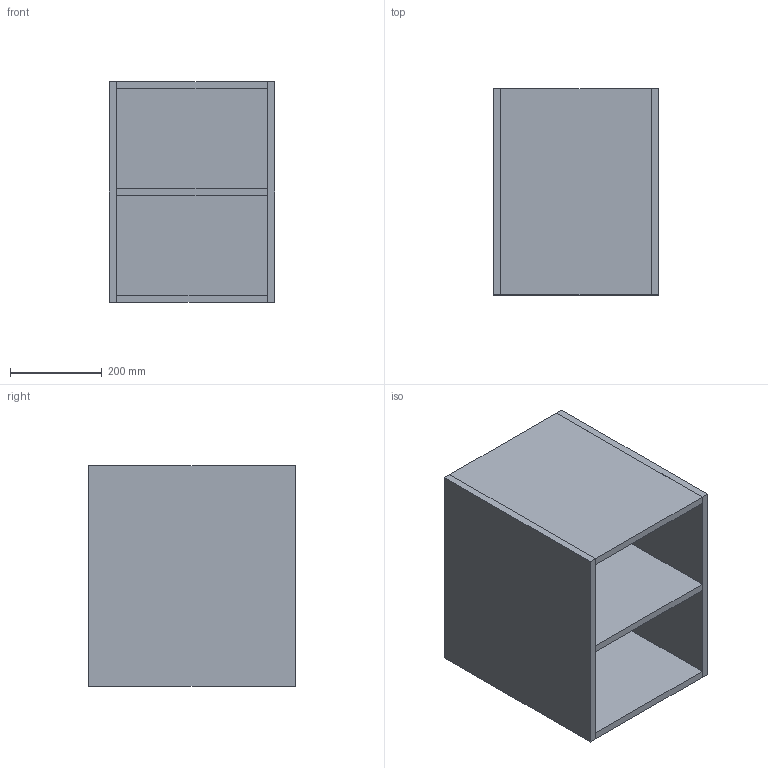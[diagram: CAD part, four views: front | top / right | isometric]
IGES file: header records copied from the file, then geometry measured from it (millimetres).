
Start section: Data from Parasolid IGES Translator 19.0.9, Copyright(c) 2006 Siemens PL M Software. All Rights Reserved.
Global section: file name: noorth-SI-H 48 D 47 W 36_8506.igs; native system: By Siemens PLM Incorporated; preprocessor: XPlus GENERIC/IGES 19.0.9; author: Noname; organization: Noname; date: 20200601.111341; units: metre
Bounding box: 360.01 x 448.06 x 480 mm (x, y, z)
Volume: 14355278.4 mm3; surface area: 2173973.3 mm2
Topology: 6 solids, 6 shells, 36 faces, 72 edges, 48 vertices
Faces by surface type: plane 36
